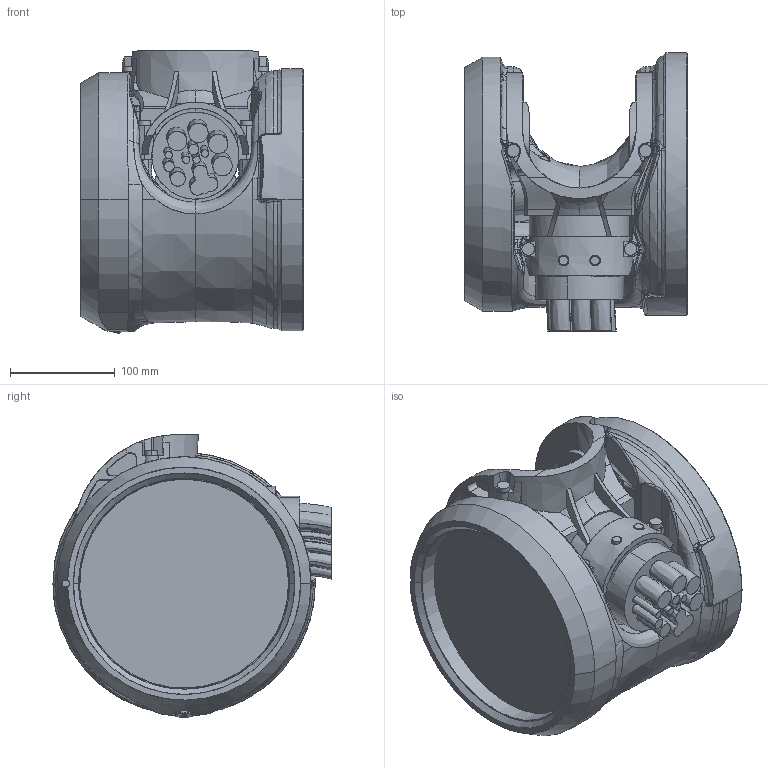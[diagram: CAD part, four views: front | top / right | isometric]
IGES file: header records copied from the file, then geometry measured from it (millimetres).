
Start section: SolidWorks IGES file using analytic representation for surfaces
Global section: file name: C:\Users\SEJAOLS6\OneDrive - ABB\Documents\SAP\7720\7720_Lightweight_models\IRB7720-LID-SW_480kg-310_OC_01_SW_J\IRB7720-LID-SW_480kg-310_OC_01_IGES_J\IRB7720_All-310_OC_00_LINK06_CABLE.igs; native system: SolidWorks 2024; preprocessor: SolidWorks 2024; author: SEJAOLS6; date: 260127.081352; units: millimetre
Bounding box: 212.5 x 265.09 x 269.35 mm (x, y, z)
Surface area: 446647.7 mm2 (no closed solid volume)
Topology: 0 solids, 0 shells, 874 faces, 12271 edges, 12258 vertices
Faces by surface type: bspline 537, revolution 337
